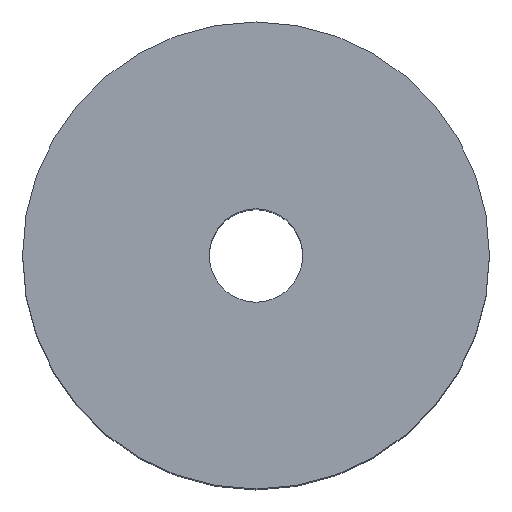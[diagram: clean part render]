
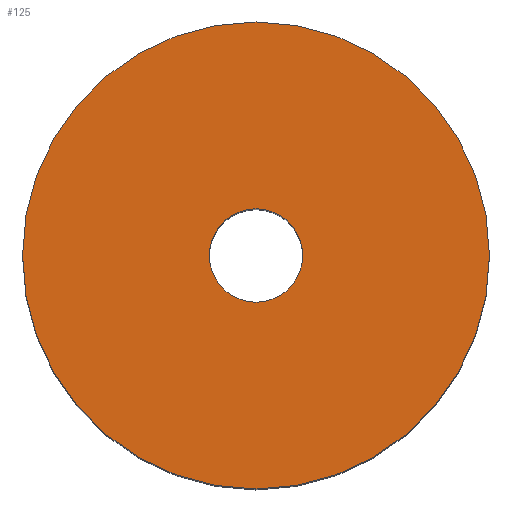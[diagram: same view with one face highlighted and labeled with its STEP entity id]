
A CAD part, top view. The second image highlights one B-rep face of the part: STEP entity #125.
In plain terms, the highlighted planar face has unit normal (0, 0, 1).
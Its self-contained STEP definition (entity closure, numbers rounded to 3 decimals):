
#125=ADVANCED_FACE('',(#137,#138),#135,.T.);
#135=PLANE('',#244);
#137=FACE_BOUND('',#141,.T.);
#138=FACE_BOUND('',#142,.T.);
#141=EDGE_LOOP('',(#153,#154));
#142=EDGE_LOOP('',(#155,#156));
#153=ORIENTED_EDGE('',*,*,#205,.T.);
#154=ORIENTED_EDGE('',*,*,#206,.T.);
#155=ORIENTED_EDGE('',*,*,#207,.F.);
#156=ORIENTED_EDGE('',*,*,#208,.F.);
#193=VERTEX_POINT('',#322);
#194=VERTEX_POINT('',#323);
#195=VERTEX_POINT('',#326);
#196=VERTEX_POINT('',#327);
#205=EDGE_CURVE('',#193,#194,#225,.T.);
#206=EDGE_CURVE('',#194,#193,#226,.T.);
#207=EDGE_CURVE('',#195,#196,#227,.T.);
#208=EDGE_CURVE('',#196,#195,#228,.T.);
#225=CIRCLE('',#240,50.);
#226=CIRCLE('',#241,50.);
#227=CIRCLE('',#242,10.);
#228=CIRCLE('',#243,10.);
#240=AXIS2_PLACEMENT_3D('',#321,#266,#267);
#241=AXIS2_PLACEMENT_3D('',#324,#268,#269);
#242=AXIS2_PLACEMENT_3D('',#325,#270,#271);
#243=AXIS2_PLACEMENT_3D('',#328,#272,#273);
#244=AXIS2_PLACEMENT_3D('',#329,#274,#275);
#266=DIRECTION('',(0.,0.,1.));
#267=DIRECTION('',(0.,1.,0.));
#268=DIRECTION('',(0.,0.,1.));
#269=DIRECTION('',(0.,-1.,0.));
#270=DIRECTION('',(0.,0.,1.));
#271=DIRECTION('',(0.,-1.,0.));
#272=DIRECTION('',(0.,0.,1.));
#273=DIRECTION('',(0.,1.,0.));
#274=DIRECTION('',(0.,0.,1.));
#275=DIRECTION('',(0.,1.,0.));
#321=CARTESIAN_POINT('',(0.,0.,123.));
#322=CARTESIAN_POINT('',(-50.,0.,123.));
#323=CARTESIAN_POINT('',(50.,0.,123.));
#324=CARTESIAN_POINT('',(0.,0.,123.));
#325=CARTESIAN_POINT('',(0.,0.,123.));
#326=CARTESIAN_POINT('',(10.,0.,123.));
#327=CARTESIAN_POINT('',(-10.,0.,123.));
#328=CARTESIAN_POINT('',(0.,0.,123.));
#329=CARTESIAN_POINT('',(0.,0.,123.));
